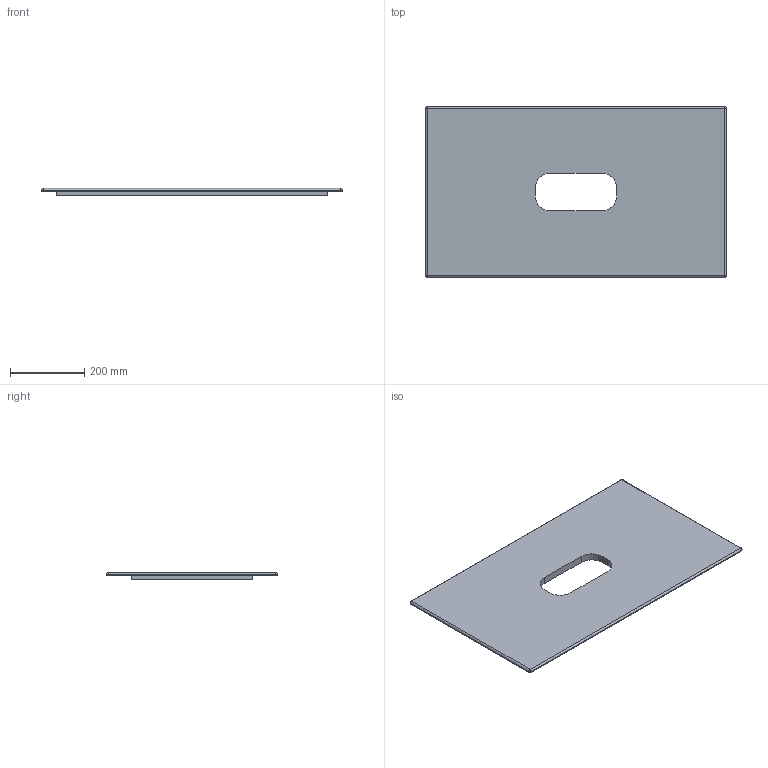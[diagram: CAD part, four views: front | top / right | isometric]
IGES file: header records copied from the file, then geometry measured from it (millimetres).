
Start section: START RECORD GO HERE.
Global section: file name: 3D ART 2051.igs; native system: DASSAULT SYSTEMES CATIA V5 R19 - www.3ds.com; preprocessor: CATIA Version 5 Release 19 SP 5 ; author: Luca; organization: DESKTOP-V7SON24; date: 20191030.173826; units: millimetre
Bounding box: 810 x 460 x 20 mm (x, y, z)
Surface area: 753587.5 mm2 (no closed solid volume)
Topology: 0 solids, 0 shells, 44 faces, 204 edges, 200 vertices
Faces by surface type: revolution 24, plane 20
